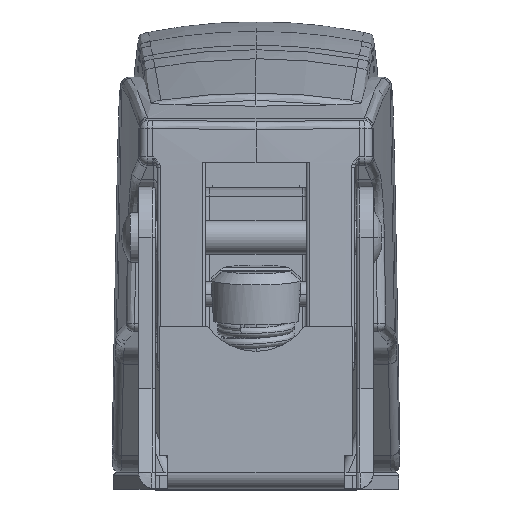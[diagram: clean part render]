
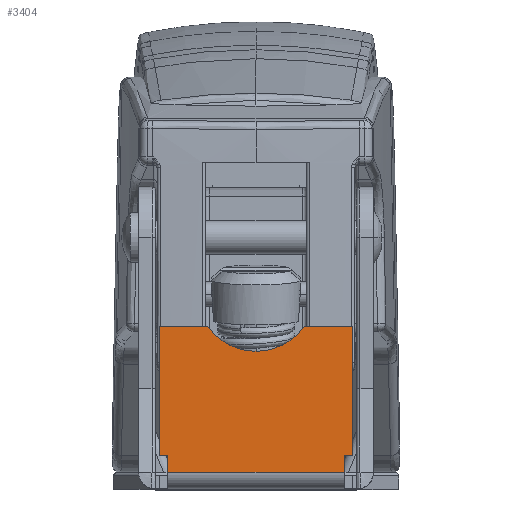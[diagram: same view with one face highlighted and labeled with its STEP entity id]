
A CAD part, top view. The second image highlights one B-rep face of the part: STEP entity #3404.
In plain terms, the highlighted planar face has unit normal (0, 0, 1).
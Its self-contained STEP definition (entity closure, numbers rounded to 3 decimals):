
#1=DIRECTION('',(-1.,0.,0.));
#2=VECTOR('',#1,10.5);
#3=CARTESIAN_POINT('',(5.25,1.,6.));
#4=LINE('',#3,#2);
#5=DIRECTION('',(0.,-1.,0.));
#6=VECTOR('',#5,1.);
#7=CARTESIAN_POINT('',(-5.25,2.,6.));
#8=LINE('',#7,#6);
#9=DIRECTION('',(1.,0.,0.));
#10=VECTOR('',#9,0.5);
#11=CARTESIAN_POINT('',(-5.75,2.,6.));
#12=LINE('',#11,#10);
#13=DIRECTION('',(0.,-1.,0.));
#14=VECTOR('',#13,7.7);
#15=CARTESIAN_POINT('',(-5.75,9.7,6.));
#16=LINE('',#15,#14);
#17=DIRECTION('',(-1.,0.,0.));
#18=VECTOR('',#17,2.878);
#19=CARTESIAN_POINT('',(-2.872,9.7,6.));
#20=LINE('',#19,#18);
#21=CARTESIAN_POINT('',(0.,11.7,6.));
#22=DIRECTION('',(0.,0.,-1.));
#23=DIRECTION('',(0.821,-0.571,0.));
#24=AXIS2_PLACEMENT_3D('',#21,#22,#23);
#26=DIRECTION('',(-1.,0.,0.));
#27=VECTOR('',#26,2.878);
#28=CARTESIAN_POINT('',(5.75,9.7,6.));
#29=LINE('',#28,#27);
#30=DIRECTION('',(0.,1.,0.));
#31=VECTOR('',#30,7.7);
#32=CARTESIAN_POINT('',(5.75,2.,6.));
#33=LINE('',#32,#31);
#34=DIRECTION('',(1.,0.,0.));
#35=VECTOR('',#34,0.5);
#36=CARTESIAN_POINT('',(5.25,2.,6.));
#37=LINE('',#36,#35);
#38=DIRECTION('',(0.,1.,0.));
#39=VECTOR('',#38,1.);
#40=CARTESIAN_POINT('',(5.25,1.,6.));
#41=LINE('',#40,#39);
#2700=CARTESIAN_POINT('',(2.872,9.7,6.));
#2701=CARTESIAN_POINT('',(-2.872,9.7,6.));
#2702=VERTEX_POINT('',#2700);
#2703=VERTEX_POINT('',#2701);
#2704=CARTESIAN_POINT('',(5.75,9.7,6.));
#2705=VERTEX_POINT('',#2704);
#2706=CARTESIAN_POINT('',(5.75,2.,6.));
#2707=VERTEX_POINT('',#2706);
#2727=CARTESIAN_POINT('',(5.25,1.,6.));
#2728=CARTESIAN_POINT('',(-5.25,1.,6.));
#2729=VERTEX_POINT('',#2727);
#2730=VERTEX_POINT('',#2728);
#2751=CARTESIAN_POINT('',(-5.75,9.7,6.));
#2752=CARTESIAN_POINT('',(-5.75,2.,6.));
#2753=VERTEX_POINT('',#2751);
#2754=VERTEX_POINT('',#2752);
#2868=CARTESIAN_POINT('',(-5.25,2.,6.));
#2869=VERTEX_POINT('',#2868);
#2870=CARTESIAN_POINT('',(5.25,2.,6.));
#2871=VERTEX_POINT('',#2870);
#3377=CARTESIAN_POINT('',(0.,-21.5,6.));
#3378=DIRECTION('',(0.,0.,1.));
#3379=DIRECTION('',(0.,-1.,0.));
#3380=AXIS2_PLACEMENT_3D('',#3377,#3378,#3379);
#3381=PLANE('',#3380);
#3383=ORIENTED_EDGE('',*,*,#3382,.T.);
#3385=ORIENTED_EDGE('',*,*,#3384,.F.);
#3387=ORIENTED_EDGE('',*,*,#3386,.F.);
#3389=ORIENTED_EDGE('',*,*,#3388,.F.);
#3391=ORIENTED_EDGE('',*,*,#3390,.F.);
#3393=ORIENTED_EDGE('',*,*,#3392,.F.);
#3395=ORIENTED_EDGE('',*,*,#3394,.F.);
#3397=ORIENTED_EDGE('',*,*,#3396,.F.);
#3399=ORIENTED_EDGE('',*,*,#3398,.F.);
#3401=ORIENTED_EDGE('',*,*,#3400,.F.);
#3402=EDGE_LOOP('',(#3383,#3385,#3387,#3389,#3391,#3393,#3395,#3397,#3399,
#3401));
#3403=FACE_OUTER_BOUND('',#3402,.F.);
#3404=ADVANCED_FACE('',(#3403),#3381,.T.);
#25=CIRCLE('',#24,3.5);
#3382=EDGE_CURVE('',#2729,#2730,#4,.T.);
#3384=EDGE_CURVE('',#2869,#2730,#8,.T.);
#3386=EDGE_CURVE('',#2754,#2869,#12,.T.);
#3388=EDGE_CURVE('',#2753,#2754,#16,.T.);
#3390=EDGE_CURVE('',#2703,#2753,#20,.T.);
#3392=EDGE_CURVE('',#2702,#2703,#25,.T.);
#3394=EDGE_CURVE('',#2705,#2702,#29,.T.);
#3396=EDGE_CURVE('',#2707,#2705,#33,.T.);
#3398=EDGE_CURVE('',#2871,#2707,#37,.T.);
#3400=EDGE_CURVE('',#2729,#2871,#41,.T.);
